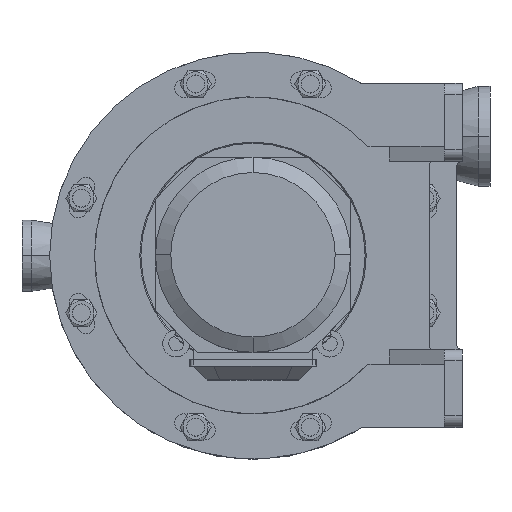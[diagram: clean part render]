
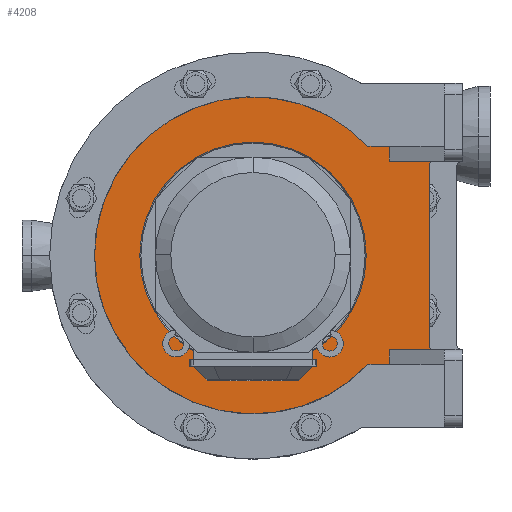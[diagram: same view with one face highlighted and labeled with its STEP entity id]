
A CAD part, top view. The second image highlights one B-rep face of the part: STEP entity #4208.
In plain terms, the highlighted planar face has unit normal (0, 0, 1).
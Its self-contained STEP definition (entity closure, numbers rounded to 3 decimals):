
#930=CARTESIAN_POINT('',(-212.0,0.,215.0));
#931=VERTEX_POINT('',#930);
#998=CARTESIAN_POINT('',(153.714,-146.,215.0));
#999=VERTEX_POINT('',#998);
#1006=CARTESIAN_POINT('',(0.0,0.0,215.0));
#1007=DIRECTION('',(0.0,0.0,-1.0));
#1008=DIRECTION('',(1.0,0.0,0.0));
#1009=AXIS2_PLACEMENT_3D('',#1006,#1007,#1008);
#1010=CIRCLE('',#1009,212.0);
#1011=EDGE_CURVE('',#999,#931,#1010,.T.);
#1298=CARTESIAN_POINT('',(-151.5,0.,215.));
#1299=VERTEX_POINT('',#1298);
#1313=CARTESIAN_POINT('',(151.5,0.0,215.));
#1314=VERTEX_POINT('',#1313);
#1321=CARTESIAN_POINT('',(0.0,0.0,215.));
#1322=DIRECTION('',(0.0,0.0,1.0));
#1323=DIRECTION('',(-1.0,0.0,0.0));
#1324=AXIS2_PLACEMENT_3D('',#1321,#1322,#1323);
#1325=CIRCLE('',#1324,151.5);
#1326=EDGE_CURVE('',#1314,#1299,#1325,.T.);
#3558=CARTESIAN_POINT('',(153.714,146.0,215.0));
#3559=VERTEX_POINT('',#3558);
#3566=CARTESIAN_POINT('',(182.569,146.0,215.));
#3567=VERTEX_POINT('',#3566);
#3568=CARTESIAN_POINT('',(153.714,146.0,215.0));
#3569=DIRECTION('',(1.0,0.0,0.0));
#3570=VECTOR('',#3569,28.855);
#3571=LINE('',#3568,#3570);
#3572=EDGE_CURVE('',#3559,#3567,#3571,.T.);
#4027=CARTESIAN_POINT('',(182.569,126.0,215.));
#4028=VERTEX_POINT('',#4027);
#4037=CARTESIAN_POINT('',(182.569,126.0,215.));
#4038=DIRECTION('',(0.0,1.0,0.0));
#4039=VECTOR('',#4038,20.0);
#4040=LINE('',#4037,#4039);
#4041=EDGE_CURVE('',#4028,#3567,#4040,.T.);
#4051=CARTESIAN_POINT('',(182.569,-126.0,215.));
#4052=VERTEX_POINT('',#4051);
#4059=CARTESIAN_POINT('',(182.569,-146.0,215.));
#4060=VERTEX_POINT('',#4059);
#4061=CARTESIAN_POINT('',(182.569,-146.0,215.));
#4062=DIRECTION('',(0.0,1.0,0.0));
#4063=VECTOR('',#4062,20.0);
#4064=LINE('',#4061,#4063);
#4065=EDGE_CURVE('',#4060,#4052,#4064,.T.);
#4123=CARTESIAN_POINT('',(182.569,-146.0,215.));
#4124=DIRECTION('',(-1.0,0.0,0.0));
#4125=VECTOR('',#4124,28.855);
#4126=LINE('',#4123,#4125);
#4127=EDGE_CURVE('',#4060,#999,#4126,.T.);
#4139=CARTESIAN_POINT('',(19.273,0.,215.));
#4140=DIRECTION('',(0.0,0.0,1.0));
#4141=DIRECTION('',(1.0,0.0,0.0));
#4142=AXIS2_PLACEMENT_3D('',#4139,#4140,#4141);
#4143=PLANE('',#4142);
#4144=ORIENTED_EDGE('',*,*,#4041,.T.);
#4145=ORIENTED_EDGE('',*,*,#3572,.F.);
#4146=CARTESIAN_POINT('',(0.0,0.0,215.0));
#4147=DIRECTION('',(0.0,0.0,-1.0));
#4148=DIRECTION('',(1.0,0.0,0.0));
#4149=AXIS2_PLACEMENT_3D('',#4146,#4147,#4148);
#4150=CIRCLE('',#4149,212.0);
#4151=EDGE_CURVE('',#931,#3559,#4150,.T.);
#4152=ORIENTED_EDGE('',*,*,#4151,.F.);
#4153=ORIENTED_EDGE('',*,*,#1011,.F.);
#4154=ORIENTED_EDGE('',*,*,#4127,.F.);
#4155=ORIENTED_EDGE('',*,*,#4065,.T.);
#4156=CARTESIAN_POINT('',(241.,-126.,215.0));
#4157=VERTEX_POINT('',#4156);
#4158=CARTESIAN_POINT('',(182.569,-126.0,215.));
#4159=DIRECTION('',(1.0,0.0,0.0));
#4160=VECTOR('',#4159,58.431);
#4161=LINE('',#4158,#4160);
#4162=EDGE_CURVE('',#4052,#4157,#4161,.T.);
#4163=ORIENTED_EDGE('',*,*,#4162,.T.);
#4164=CARTESIAN_POINT('',(236.0,-121.0,215.0));
#4165=VERTEX_POINT('',#4164);
#4166=CARTESIAN_POINT('',(241.,-121.0,215.0));
#4167=DIRECTION('',(0.0,0.0,1.0));
#4168=DIRECTION('',(1.0,0.0,0.0));
#4169=AXIS2_PLACEMENT_3D('',#4166,#4167,#4168);
#4170=CIRCLE('',#4169,5.0);
#4171=EDGE_CURVE('',#4165,#4157,#4170,.T.);
#4172=ORIENTED_EDGE('',*,*,#4171,.F.);
#4173=CARTESIAN_POINT('',(236.0,121.,215.0));
#4174=VERTEX_POINT('',#4173);
#4175=CARTESIAN_POINT('',(236.0,121.,215.0));
#4176=DIRECTION('',(0.0,-1.0,0.0));
#4177=VECTOR('',#4176,242.0);
#4178=LINE('',#4175,#4177);
#4179=EDGE_CURVE('',#4174,#4165,#4178,.T.);
#4180=ORIENTED_EDGE('',*,*,#4179,.F.);
#4181=CARTESIAN_POINT('',(241.,126.,215.0));
#4182=VERTEX_POINT('',#4181);
#4183=CARTESIAN_POINT('',(241.,121.,215.0));
#4184=DIRECTION('',(0.0,0.0,1.0));
#4185=DIRECTION('',(1.0,0.0,0.0));
#4186=AXIS2_PLACEMENT_3D('',#4183,#4184,#4185);
#4187=CIRCLE('',#4186,5.0);
#4188=EDGE_CURVE('',#4182,#4174,#4187,.T.);
#4189=ORIENTED_EDGE('',*,*,#4188,.F.);
#4190=CARTESIAN_POINT('',(241.,126.,215.0));
#4191=DIRECTION('',(-1.0,0.0,0.0));
#4192=VECTOR('',#4191,58.431);
#4193=LINE('',#4190,#4192);
#4194=EDGE_CURVE('',#4182,#4028,#4193,.T.);
#4195=ORIENTED_EDGE('',*,*,#4194,.T.);
#4196=EDGE_LOOP('',(#4144,#4145,#4152,#4153,#4154,#4155,#4163,#4172,#4180,#4189,#4195));
#4197=FACE_OUTER_BOUND('',#4196,.T.);
#4198=ORIENTED_EDGE('',*,*,#1326,.F.);
#4199=CARTESIAN_POINT('',(0.0,0.0,215.));
#4200=DIRECTION('',(0.0,0.0,1.0));
#4201=DIRECTION('',(-1.0,0.0,0.0));
#4202=AXIS2_PLACEMENT_3D('',#4199,#4200,#4201);
#4203=CIRCLE('',#4202,151.5);
#4204=EDGE_CURVE('',#1299,#1314,#4203,.T.);
#4205=ORIENTED_EDGE('',*,*,#4204,.F.);
#4206=EDGE_LOOP('',(#4198,#4205));
#4207=FACE_BOUND('',#4206,.T.);
#4208=ADVANCED_FACE('',(#4197,#4207),#4143,.T.);
